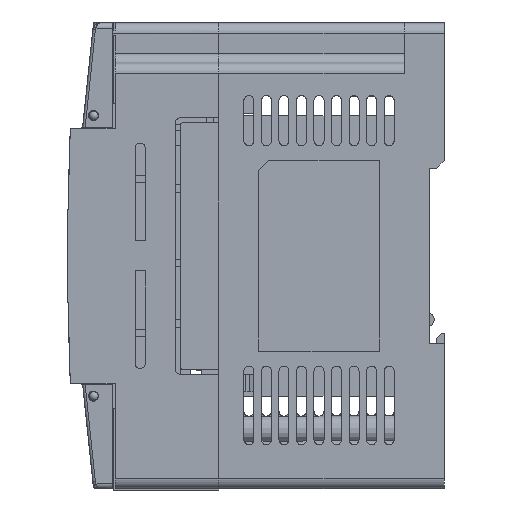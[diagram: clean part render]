
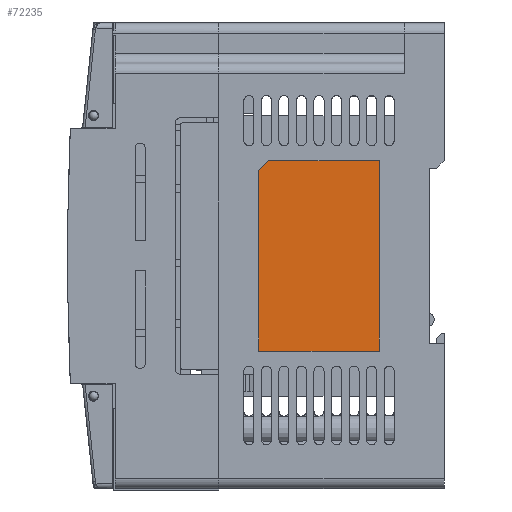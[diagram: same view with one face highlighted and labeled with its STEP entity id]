
A CAD part, left-side view. The second image highlights one B-rep face of the part: STEP entity #72235.
In plain terms, the highlighted planar face has unit normal (-1, 0, 0).
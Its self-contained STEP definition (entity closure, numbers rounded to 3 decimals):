
#2396 = CARTESIAN_POINT ( 'NONE',  ( -44.8, 12.996, 19. ) ) ;
#5725 = EDGE_CURVE ( 'NONE', #61945, #150041, #114501, .T. ) ;
#10604 = DIRECTION ( 'NONE',  ( 0., 0.706, -0.708 ) ) ;
#15189 = VECTOR ( 'NONE', #10604, 1000. ) ;
#20451 = EDGE_CURVE ( 'NONE', #20801, #152427, #91271, .T. ) ;
#20801 = VERTEX_POINT ( 'NONE', #27294 ) ;
#22311 = CARTESIAN_POINT ( 'NONE',  ( -44.8, 36.996, -19. ) ) ;
#27294 = CARTESIAN_POINT ( 'NONE',  ( -44.8, 35., 19. ) ) ;
#38312 = CARTESIAN_POINT ( 'NONE',  ( -44.8, 0., 0. ) ) ;
#40661 = ORIENTED_EDGE ( 'NONE', *, *, #5725, .T. ) ;
#60456 = CARTESIAN_POINT ( 'NONE',  ( -44.8, 12.996, -19. ) ) ;
#61945 = VERTEX_POINT ( 'NONE', #22311 ) ;
#62093 = VECTOR ( 'NONE', #132926, 1000. ) ;
#62630 = CARTESIAN_POINT ( 'NONE',  ( -44.8, 36.996, -19. ) ) ;
#62851 = VECTOR ( 'NONE', #100773, 1000. ) ;
#64812 = CARTESIAN_POINT ( 'NONE',  ( -44.8, 36.996, 17. ) ) ;
#67256 = ORIENTED_EDGE ( 'NONE', *, *, #146054, .T. ) ;
#72235 = ADVANCED_FACE ( 'NONE', ( #142196 ), #168819, .F. ) ;
#73672 = LINE ( 'NONE', #168086, #130307 ) ;
#81991 = DIRECTION ( 'NONE',  ( 0., 0., -1. ) ) ;
#88841 = CARTESIAN_POINT ( 'NONE',  ( -44.8, 12.996, -19. ) ) ;
#91271 = LINE ( 'NONE', #131611, #15189 ) ;
#91657 = ORIENTED_EDGE ( 'NONE', *, *, #110656, .T. ) ;
#94296 = ORIENTED_EDGE ( 'NONE', *, *, #20451, .T. ) ;
#96448 = CARTESIAN_POINT ( 'NONE',  ( -44.8, 12.996, 19. ) ) ;
#100773 = DIRECTION ( 'NONE',  ( 0., -1., 0. ) ) ;
#110656 = EDGE_CURVE ( 'NONE', #162376, #20801, #160387, .T. ) ;
#113187 = DIRECTION ( 'NONE',  ( 0., 0., 1. ) ) ;
#114501 = LINE ( 'NONE', #60456, #62851 ) ;
#125632 = EDGE_CURVE ( 'NONE', #152427, #61945, #139917, .T. ) ;
#130307 = VECTOR ( 'NONE', #113187, 1000. ) ;
#131611 = CARTESIAN_POINT ( 'NONE',  ( -44.8, 35., 19. ) ) ;
#132926 = DIRECTION ( 'NONE',  ( 0., 1., 0. ) ) ;
#139917 = LINE ( 'NONE', #62630, #161206 ) ;
#142196 = FACE_OUTER_BOUND ( 'NONE', #166546, .T. ) ;
#143045 = DIRECTION ( 'NONE',  ( 1., 0., 0. ) ) ;
#146054 = EDGE_CURVE ( 'NONE', #150041, #162376, #73672, .T. ) ;
#149323 = AXIS2_PLACEMENT_3D ( 'NONE', #38312, #143045, #81991 ) ;
#150041 = VERTEX_POINT ( 'NONE', #88841 ) ;
#152427 = VERTEX_POINT ( 'NONE', #64812 ) ;
#155322 = DIRECTION ( 'NONE',  ( 0., 0., -1. ) ) ;
#158944 = ORIENTED_EDGE ( 'NONE', *, *, #125632, .T. ) ;
#160387 = LINE ( 'NONE', #2396, #62093 ) ;
#161206 = VECTOR ( 'NONE', #155322, 1000. ) ;
#162376 = VERTEX_POINT ( 'NONE', #96448 ) ;
#166546 = EDGE_LOOP ( 'NONE', ( #40661, #67256, #91657, #94296, #158944 ) ) ;
#168086 = CARTESIAN_POINT ( 'NONE',  ( -44.8, 12.996, -19. ) ) ;
#168819 = PLANE ( 'NONE',  #149323 ) ;
